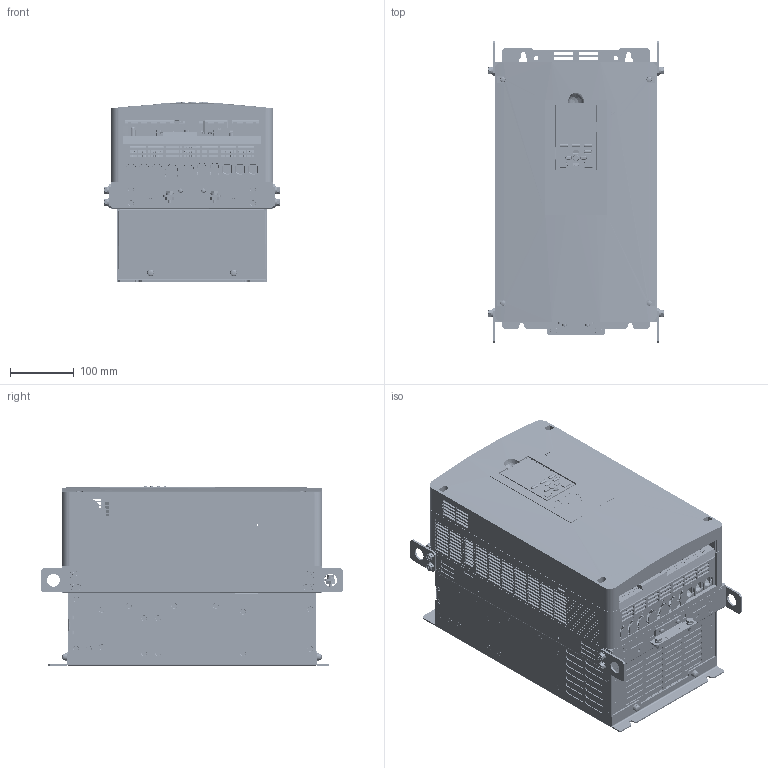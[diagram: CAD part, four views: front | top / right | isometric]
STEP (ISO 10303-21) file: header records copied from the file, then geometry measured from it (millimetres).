
FILE_DESCRIPTION((''),'2;1');
FILE_NAME('71617-GA70_C_4103_AB_B_Q_A_01_ASM','2021-04-28T',('jam'),('YASKAWA ELECTRIC CORCORATION'),'PRO/ENGINEER BY PARAMETRIC TECHNOLOGY CORPORATION, 2017170','PRO/ENGINEER BY PARAMETRIC TECHNOLOGY CORPORATION, 2017170','');
FILE_SCHEMA(('AUTOMOTIVE_DESIGN { 1 0 10303 214 1 1 1 1 }'));
Products named in the file (25): MANIFOLD_SOLID_BREP_309849; MANIFOLD_SOLID_BREP_310207; MANIFOLD_SOLID_BREP_310565; MANIFOLD_SOLID_BREP_310923; MANIFOLD_SOLID_BREP_311281; GA70_4103_BODY_1_ASM; GA70_4103_FAN_1; GEM_OPEN_SCREW_M4X25_1; GA70_ALL_TB_TYPEB_1; GEM_OPEN_SCREW_M3P5X6_1; MANIFOLD_SOLID_BREP_415120; MANIFOLD_SOLID_BREP_417345; GEM_OPEN_SCREW_M3X15_1_ASM; GA70_ALL_LED_1; GA70_ALL_CONNECTOR_1; GA70_4103_IP20_COVER_1; GA70_4103_FP_1; GA70_ALL_USB_COVER_1; GA70_ALL_LCD_OPERATOR_1; GA70_4103_SCREW_GND_1; GA70_4103_FANCOVER_1; GA70_TOP_BMDT_1; GA70_BOTTOM_BMDT_1; GA70_BMDT_SCREW_1; 71617-GA70_C_4103_AB_B_Q_A_01_ASM
Assembly tree (30 placements, depth 3):
  71617-GA70_C_4103_AB_B_Q_A_01_ASM
    GA70_4103_BODY_1_ASM
      MANIFOLD_SOLID_BREP_309849
      MANIFOLD_SOLID_BREP_310207
      MANIFOLD_SOLID_BREP_310565
      MANIFOLD_SOLID_BREP_310923
      MANIFOLD_SOLID_BREP_311281
    GA70_4103_FAN_1  x2
    GEM_OPEN_SCREW_M4X25_1  x2
    GA70_ALL_TB_TYPEB_1
    GEM_OPEN_SCREW_M3P5X6_1
    GEM_OPEN_SCREW_M3X15_1_ASM
      MANIFOLD_SOLID_BREP_415120
      MANIFOLD_SOLID_BREP_417345
    GA70_ALL_LED_1
    GA70_ALL_CONNECTOR_1
    GA70_4103_IP20_COVER_1
    GA70_4103_FP_1
    GA70_ALL_USB_COVER_1
    GA70_ALL_LCD_OPERATOR_1
    GA70_4103_SCREW_GND_1  x2
    GA70_4103_FANCOVER_1
    GA70_TOP_BMDT_1
    GA70_BOTTOM_BMDT_1
    GA70_BMDT_SCREW_1  x4
Bounding box: 274.4 x 474 x 281.5 mm (x, y, z)
Volume: 21622694.9 mm3; surface area: 1455330.1 mm2
Topology: 28 solids, 58 shells, 17295 faces, 46241 edges, 29919 vertices
Faces by surface type: plane 12640, cylinder 3075, cone 697, bspline 453, torus 277, sphere 84, extrusion 69
Entity records: 650237 total; most frequent: CARTESIAN_POINT 133573, ORIENTED_EDGE 88796, DIRECTION 80259, EDGE_CURVE 44398, VECTOR 35171, LINE 35126, VERTEX_POINT 28791, AXIS2_PLACEMENT_3D 22544
